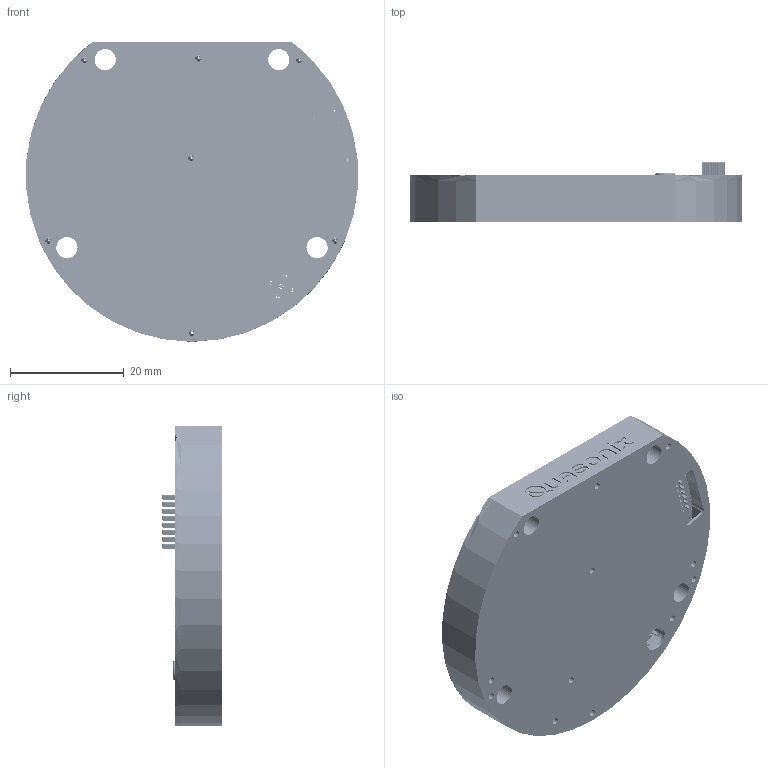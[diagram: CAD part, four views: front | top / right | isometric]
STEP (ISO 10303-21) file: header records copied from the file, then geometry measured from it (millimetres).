
FILE_DESCRIPTION (( 'STEP AP203' ), '1' );
FILE_NAME ('01PE_12-12-13.STEP', '2013-12-12T15:40:46', ( 'Quasonix' ), ( '' ), 'SwSTEP 2.0', 'SolidWorks 2012', '' );
FILE_SCHEMA (( 'CONFIG_CONTROL_DESIGN' ));
Length unit declared in the file: inch
Products named in the file (1): 01PE_12-12-13
Bounding box: 58.32 x 10.59 x 52.59 mm (x, y, z)
Surface area: 13253.2 mm2 (no closed solid volume)
Topology: 0 solids, 34 shells, 617 faces, 7351 edges, 6786 vertices
Faces by surface type: plane 367, cylinder 167, bspline 59, cone 24
Entity records: 76696 total; most frequent: CARTESIAN_POINT 16105, DIRECTION 14272, ORIENTED_EDGE 8706, EDGE_CURVE 7351, VERTEX_POINT 6786, AXIS2_PLACEMENT_3D 6489, CIRCLE 5930, EDGE_LOOP 3496
